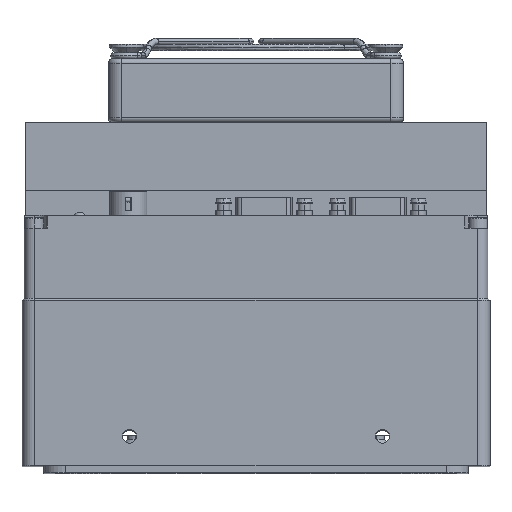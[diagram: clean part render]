
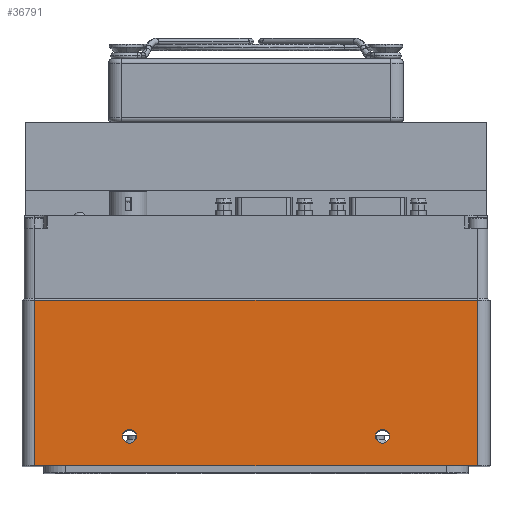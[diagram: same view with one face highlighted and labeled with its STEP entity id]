
A CAD part, top view. The second image highlights one B-rep face of the part: STEP entity #36791.
In plain terms, the highlighted planar face has unit normal (0, 0, 1).
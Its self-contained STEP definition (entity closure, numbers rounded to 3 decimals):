
#392 = ORIENTED_EDGE ( 'NONE', *, *, #7268, .T. ) ;
#938 = DIRECTION ( 'NONE',  ( 0., 0., -1. ) ) ;
#2661 = VECTOR ( 'NONE', #31854, 1000. ) ;
#2829 = ORIENTED_EDGE ( 'NONE', *, *, #24062, .T. ) ;
#3070 = CARTESIAN_POINT ( 'NONE',  ( -55.634, -40.248, 84.619 ) ) ;
#3071 = CIRCLE ( 'NONE', #24600, 1.65 ) ;
#3600 = LINE ( 'NONE', #8748, #2661 ) ;
#4566 = VERTEX_POINT ( 'NONE', #4927 ) ;
#4723 = CIRCLE ( 'NONE', #19766, 1.65 ) ;
#4927 = CARTESIAN_POINT ( 'NONE',  ( 2.716, -40.248, 84.619 ) ) ;
#5325 = CARTESIAN_POINT ( 'NONE',  ( 26.866, -8.028, 84.619 ) ) ;
#6169 = DIRECTION ( 'NONE',  ( -1., 0., 0. ) ) ;
#6206 = EDGE_CURVE ( 'NONE', #32941, #21776, #27803, .T. ) ;
#7028 = CARTESIAN_POINT ( 'NONE',  ( 4.366, -40.248, 84.619 ) ) ;
#7116 = DIRECTION ( 'NONE',  ( 1., 0., 0. ) ) ;
#7268 = EDGE_CURVE ( 'NONE', #36386, #22245, #14413, .T. ) ;
#8391 = AXIS2_PLACEMENT_3D ( 'NONE', #16027, #938, #7116 ) ;
#8748 = CARTESIAN_POINT ( 'NONE',  ( 26.866, -44.198, 84.619 ) ) ;
#9325 = FACE_BOUND ( 'NONE', #30086, .T. ) ;
#9736 = EDGE_CURVE ( 'NONE', #4566, #9887, #13743, .T. ) ;
#9887 = VERTEX_POINT ( 'NONE', #21879 ) ;
#9920 = DIRECTION ( 'NONE',  ( -1., 0., 0. ) ) ;
#10715 = EDGE_CURVE ( 'NONE', #18568, #17345, #32147, .T. ) ;
#10884 = EDGE_LOOP ( 'NONE', ( #12485, #10933 ) ) ;
#10933 = ORIENTED_EDGE ( 'NONE', *, *, #25679, .F. ) ;
#11494 = EDGE_CURVE ( 'NONE', #22245, #32941, #16411, .T. ) ;
#12095 = FACE_BOUND ( 'NONE', #10884, .T. ) ;
#12196 = ORIENTED_EDGE ( 'NONE', *, *, #6206, .T. ) ;
#12485 = ORIENTED_EDGE ( 'NONE', *, *, #10715, .F. ) ;
#12540 = ORIENTED_EDGE ( 'NONE', *, *, #9736, .F. ) ;
#13457 = FACE_OUTER_BOUND ( 'NONE', #24972, .T. ) ;
#13741 = DIRECTION ( 'NONE',  ( 1., 0., 0. ) ) ;
#13743 = CIRCLE ( 'NONE', #36418, 1.65 ) ;
#14413 = LINE ( 'NONE', #32587, #16708 ) ;
#15559 = DIRECTION ( 'NONE',  ( 0., 0., 1. ) ) ;
#16027 = CARTESIAN_POINT ( 'NONE',  ( 44.366, -44.198, 84.619 ) ) ;
#16228 = CARTESIAN_POINT ( 'NONE',  ( -78.134, -47.248, 84.619 ) ) ;
#16411 = LINE ( 'NONE', #17215, #31644 ) ;
#16708 = VECTOR ( 'NONE', #24202, 1000. ) ;
#17215 = CARTESIAN_POINT ( 'NONE',  ( -78.134, -44.198, 84.619 ) ) ;
#17345 = VERTEX_POINT ( 'NONE', #32721 ) ;
#17860 = DIRECTION ( 'NONE',  ( 0., 0., 1. ) ) ;
#18487 = AXIS2_PLACEMENT_3D ( 'NONE', #36376, #18684, #9920 ) ;
#18568 = VERTEX_POINT ( 'NONE', #25263 ) ;
#18684 = DIRECTION ( 'NONE',  ( 0., 0., 1. ) ) ;
#19766 = AXIS2_PLACEMENT_3D ( 'NONE', #35553, #17860, #35295 ) ;
#19946 = VECTOR ( 'NONE', #13741, 1000. ) ;
#20294 = DIRECTION ( 'NONE',  ( 0., -1., 0. ) ) ;
#21776 = VERTEX_POINT ( 'NONE', #34397 ) ;
#21879 = CARTESIAN_POINT ( 'NONE',  ( 6.016, -40.248, 84.619 ) ) ;
#22245 = VERTEX_POINT ( 'NONE', #24662 ) ;
#23734 = DIRECTION ( 'NONE',  ( 0., 0., 1. ) ) ;
#24062 = EDGE_CURVE ( 'NONE', #21776, #36386, #3600, .T. ) ;
#24202 = DIRECTION ( 'NONE',  ( -1., 0., 0. ) ) ;
#24469 = DIRECTION ( 'NONE',  ( -1., 0., 0. ) ) ;
#24600 = AXIS2_PLACEMENT_3D ( 'NONE', #3070, #23734, #6169 ) ;
#24662 = CARTESIAN_POINT ( 'NONE',  ( -78.134, -8.028, 84.619 ) ) ;
#24972 = EDGE_LOOP ( 'NONE', ( #29796, #12196, #2829, #392 ) ) ;
#25263 = CARTESIAN_POINT ( 'NONE',  ( -57.284, -40.248, 84.619 ) ) ;
#25679 = EDGE_CURVE ( 'NONE', #17345, #18568, #3071, .T. ) ;
#27641 = PLANE ( 'NONE',  #8391 ) ;
#27803 = LINE ( 'NONE', #31301, #19946 ) ;
#28762 = ORIENTED_EDGE ( 'NONE', *, *, #36561, .F. ) ;
#29796 = ORIENTED_EDGE ( 'NONE', *, *, #11494, .T. ) ;
#30086 = EDGE_LOOP ( 'NONE', ( #12540, #28762 ) ) ;
#31301 = CARTESIAN_POINT ( 'NONE',  ( 44.366, -47.248, 84.619 ) ) ;
#31644 = VECTOR ( 'NONE', #20294, 1000. ) ;
#31854 = DIRECTION ( 'NONE',  ( 0., 1., 0. ) ) ;
#32147 = CIRCLE ( 'NONE', #18487, 1.65 ) ;
#32587 = CARTESIAN_POINT ( 'NONE',  ( -92.634, -8.028, 84.619 ) ) ;
#32721 = CARTESIAN_POINT ( 'NONE',  ( -53.984, -40.248, 84.619 ) ) ;
#32941 = VERTEX_POINT ( 'NONE', #16228 ) ;
#34397 = CARTESIAN_POINT ( 'NONE',  ( 26.866, -47.248, 84.619 ) ) ;
#35295 = DIRECTION ( 'NONE',  ( -1., 0., 0. ) ) ;
#35553 = CARTESIAN_POINT ( 'NONE',  ( 4.366, -40.248, 84.619 ) ) ;
#36376 = CARTESIAN_POINT ( 'NONE',  ( -55.634, -40.248, 84.619 ) ) ;
#36386 = VERTEX_POINT ( 'NONE', #5325 ) ;
#36418 = AXIS2_PLACEMENT_3D ( 'NONE', #7028, #15559, #24469 ) ;
#36561 = EDGE_CURVE ( 'NONE', #9887, #4566, #4723, .T. ) ;
#36791 = ADVANCED_FACE ( 'NONE', ( #12095, #9325, #13457 ), #27641, .F. ) ;
